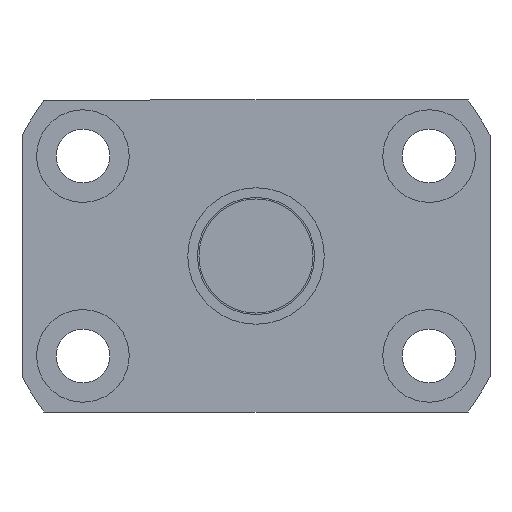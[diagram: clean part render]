
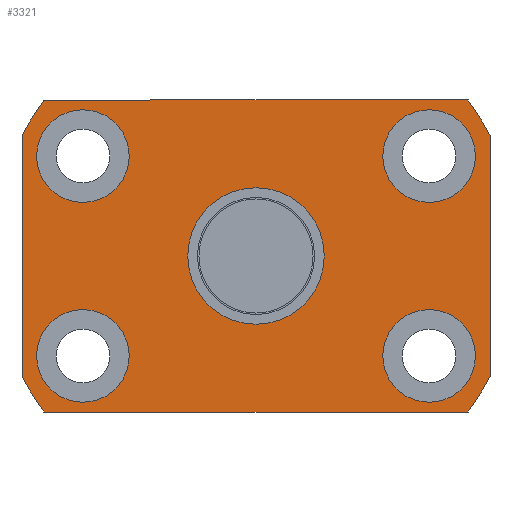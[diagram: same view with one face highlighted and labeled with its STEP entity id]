
A CAD part, left-side view. The second image highlights one B-rep face of the part: STEP entity #3321.
In plain terms, the highlighted planar face has unit normal (-1, 0, 0).
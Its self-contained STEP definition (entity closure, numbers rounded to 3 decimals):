
#479=CARTESIAN_POINT('',(204.899,22.504,-10.25));
#480=VERTEX_POINT('',#479);
#481=CARTESIAN_POINT('',(204.899,17.754,-10.25));
#482=DIRECTION('',(1.0,0.0,0.0));
#483=DIRECTION('',(0.0,1.0,0.0));
#484=AXIS2_PLACEMENT_3D('',#481,#482,#483);
#485=CIRCLE('',#484,4.75);
#486=EDGE_CURVE('',#480,#480,#485,.T.);
#547=CARTESIAN_POINT('',(204.899,-13.004,10.25));
#548=VERTEX_POINT('',#547);
#549=CARTESIAN_POINT('',(204.899,-17.754,10.25));
#550=DIRECTION('',(1.0,0.0,0.0));
#551=DIRECTION('',(0.0,1.0,0.0));
#552=AXIS2_PLACEMENT_3D('',#549,#550,#551);
#553=CIRCLE('',#552,4.75);
#554=EDGE_CURVE('',#548,#548,#553,.T.);
#615=CARTESIAN_POINT('',(204.899,22.504,10.25));
#616=VERTEX_POINT('',#615);
#617=CARTESIAN_POINT('',(204.899,17.754,10.25));
#618=DIRECTION('',(1.0,0.0,0.0));
#619=DIRECTION('',(0.0,1.0,0.0));
#620=AXIS2_PLACEMENT_3D('',#617,#618,#619);
#621=CIRCLE('',#620,4.75);
#622=EDGE_CURVE('',#616,#616,#621,.T.);
#683=CARTESIAN_POINT('',(204.899,-13.004,-10.25));
#684=VERTEX_POINT('',#683);
#685=CARTESIAN_POINT('',(204.899,-17.754,-10.25));
#686=DIRECTION('',(1.0,0.0,0.0));
#687=DIRECTION('',(0.0,1.0,0.0));
#688=AXIS2_PLACEMENT_3D('',#685,#686,#687);
#689=CIRCLE('',#688,4.75);
#690=EDGE_CURVE('',#684,#684,#689,.T.);
#3023=CARTESIAN_POINT('',(204.899,-21.749,16.));
#3024=VERTEX_POINT('',#3023);
#3031=CARTESIAN_POINT('',(204.899,-24.,12.369));
#3032=VERTEX_POINT('',#3031);
#3033=CARTESIAN_POINT('',(204.899,0.,0.0));
#3034=DIRECTION('',(1.0,0.0,0.0));
#3035=DIRECTION('',(0.0,1.0,0.0));
#3036=AXIS2_PLACEMENT_3D('',#3033,#3034,#3035);
#3037=CIRCLE('',#3036,27.0);
#3038=EDGE_CURVE('',#3024,#3032,#3037,.T.);
#3055=CARTESIAN_POINT('',(204.899,21.749,16.));
#3056=VERTEX_POINT('',#3055);
#3063=CARTESIAN_POINT('',(204.899,21.749,16.));
#3064=DIRECTION('',(0.0,-1.0,0.0));
#3065=VECTOR('',#3064,43.497);
#3066=LINE('',#3063,#3065);
#3067=EDGE_CURVE('',#3056,#3024,#3066,.T.);
#3079=CARTESIAN_POINT('',(204.899,24.,12.369));
#3080=VERTEX_POINT('',#3079);
#3087=CARTESIAN_POINT('',(204.899,0.,0.0));
#3088=DIRECTION('',(1.0,0.0,0.0));
#3089=DIRECTION('',(0.0,1.0,0.0));
#3090=AXIS2_PLACEMENT_3D('',#3087,#3088,#3089);
#3091=CIRCLE('',#3090,27.0);
#3092=EDGE_CURVE('',#3080,#3056,#3091,.T.);
#3104=CARTESIAN_POINT('',(204.899,24.,-12.369));
#3105=VERTEX_POINT('',#3104);
#3112=CARTESIAN_POINT('',(204.899,24.,-12.369));
#3113=DIRECTION('',(0.0,0.0,1.0));
#3114=VECTOR('',#3113,24.739);
#3115=LINE('',#3112,#3114);
#3116=EDGE_CURVE('',#3105,#3080,#3115,.T.);
#3128=CARTESIAN_POINT('',(204.899,21.749,-16.));
#3129=VERTEX_POINT('',#3128);
#3136=CARTESIAN_POINT('',(204.899,0.,0.0));
#3137=DIRECTION('',(1.0,0.0,0.0));
#3138=DIRECTION('',(0.0,1.0,0.0));
#3139=AXIS2_PLACEMENT_3D('',#3136,#3137,#3138);
#3140=CIRCLE('',#3139,27.0);
#3141=EDGE_CURVE('',#3129,#3105,#3140,.T.);
#3153=CARTESIAN_POINT('',(204.899,-21.749,-16.));
#3154=VERTEX_POINT('',#3153);
#3161=CARTESIAN_POINT('',(204.899,-21.749,-16.));
#3162=DIRECTION('',(0.0,1.0,0.0));
#3163=VECTOR('',#3162,43.497);
#3164=LINE('',#3161,#3163);
#3165=EDGE_CURVE('',#3154,#3129,#3164,.T.);
#3177=CARTESIAN_POINT('',(204.899,-24.,-12.369));
#3178=VERTEX_POINT('',#3177);
#3185=CARTESIAN_POINT('',(204.899,0.,0.0));
#3186=DIRECTION('',(1.0,0.0,0.0));
#3187=DIRECTION('',(0.0,1.0,0.0));
#3188=AXIS2_PLACEMENT_3D('',#3185,#3186,#3187);
#3189=CIRCLE('',#3188,27.0);
#3190=EDGE_CURVE('',#3178,#3154,#3189,.T.);
#3203=CARTESIAN_POINT('',(204.899,-24.,12.369));
#3204=DIRECTION('',(0.0,0.0,-1.0));
#3205=VECTOR('',#3204,24.739);
#3206=LINE('',#3203,#3205);
#3207=EDGE_CURVE('',#3032,#3178,#3206,.T.);
#3218=CARTESIAN_POINT('',(204.899,7.,0.0));
#3219=VERTEX_POINT('',#3218);
#3220=CARTESIAN_POINT('',(204.899,0.,0.0));
#3221=DIRECTION('',(1.0,0.0,0.0));
#3222=DIRECTION('',(0.0,1.0,0.0));
#3223=AXIS2_PLACEMENT_3D('',#3220,#3221,#3222);
#3224=CIRCLE('',#3223,7.);
#3225=EDGE_CURVE('',#3219,#3219,#3224,.T.);
#3291=CARTESIAN_POINT('',(204.899,11.,0.0));
#3292=DIRECTION('',(-1.0,0.0,0.0));
#3293=DIRECTION('',(0.0,0.0,1.0));
#3294=AXIS2_PLACEMENT_3D('',#3291,#3292,#3293);
#3295=PLANE('',#3294);
#3296=ORIENTED_EDGE('',*,*,#3116,.F.);
#3297=ORIENTED_EDGE('',*,*,#3141,.F.);
#3298=ORIENTED_EDGE('',*,*,#3165,.F.);
#3299=ORIENTED_EDGE('',*,*,#3190,.F.);
#3300=ORIENTED_EDGE('',*,*,#3207,.F.);
#3301=ORIENTED_EDGE('',*,*,#3038,.F.);
#3302=ORIENTED_EDGE('',*,*,#3067,.F.);
#3303=ORIENTED_EDGE('',*,*,#3092,.F.);
#3304=EDGE_LOOP('',(#3296,#3297,#3298,#3299,#3300,#3301,#3302,#3303));
#3305=FACE_OUTER_BOUND('',#3304,.T.);
#3306=ORIENTED_EDGE('',*,*,#486,.T.);
#3307=EDGE_LOOP('',(#3306));
#3308=FACE_BOUND('',#3307,.T.);
#3309=ORIENTED_EDGE('',*,*,#554,.T.);
#3310=EDGE_LOOP('',(#3309));
#3311=FACE_BOUND('',#3310,.T.);
#3312=ORIENTED_EDGE('',*,*,#622,.T.);
#3313=EDGE_LOOP('',(#3312));
#3314=FACE_BOUND('',#3313,.T.);
#3315=ORIENTED_EDGE('',*,*,#690,.T.);
#3316=EDGE_LOOP('',(#3315));
#3317=FACE_BOUND('',#3316,.T.);
#3318=ORIENTED_EDGE('',*,*,#3225,.T.);
#3319=EDGE_LOOP('',(#3318));
#3320=FACE_BOUND('',#3319,.T.);
#3321=ADVANCED_FACE('',(#3305,#3308,#3311,#3314,#3317,#3320),#3295,.T.);
